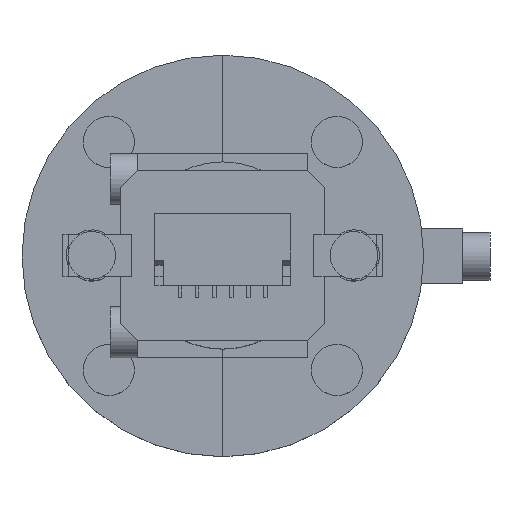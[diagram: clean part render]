
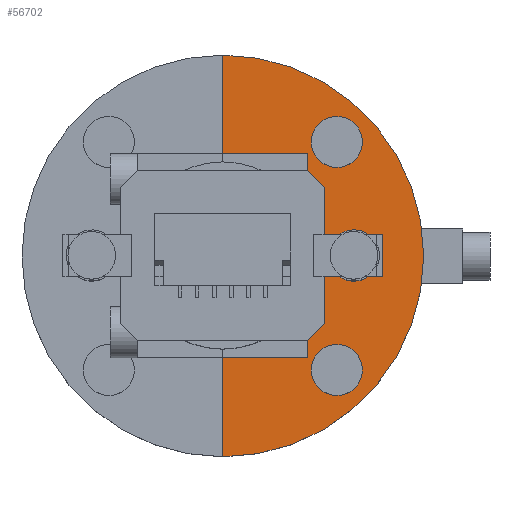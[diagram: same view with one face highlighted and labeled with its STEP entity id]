
A CAD part, top view. The second image highlights one B-rep face of the part: STEP entity #56702.
In plain terms, the highlighted planar face has unit normal (0, 0, 1).
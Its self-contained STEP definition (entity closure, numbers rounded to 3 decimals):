
#55081 = VERTEX_POINT('',#55082);
#55082 = CARTESIAN_POINT('',(4.5,0.,2.7));
#55091 = CYLINDRICAL_SURFACE('',#55092,4.5);
#55092 = AXIS2_PLACEMENT_3D('',#55093,#55094,#55095);
#55093 = CARTESIAN_POINT('',(0.,0.,1.2));
#55094 = DIRECTION('',(0.,0.,1.));
#55095 = DIRECTION('',(1.,0.,-0.));
#55103 = CYLINDRICAL_SURFACE('',#55104,4.5);
#55104 = AXIS2_PLACEMENT_3D('',#55105,#55106,#55107);
#55105 = CARTESIAN_POINT('',(0.,0.,1.2));
#55106 = DIRECTION('',(0.,0.,1.));
#55107 = DIRECTION('',(1.,0.,-0.));
#55115 = EDGE_CURVE('',#55081,#55116,#55118,.T.);
#55116 = VERTEX_POINT('',#55117);
#55117 = CARTESIAN_POINT('',(0.,4.5,2.7));
#55118 = SURFACE_CURVE('',#55119,(#55124,#55131),.PCURVE_S1.);
#55119 = CIRCLE('',#55120,4.5);
#55120 = AXIS2_PLACEMENT_3D('',#55121,#55122,#55123);
#55121 = CARTESIAN_POINT('',(0.,0.,2.7));
#55122 = DIRECTION('',(0.,0.,1.));
#55123 = DIRECTION('',(1.,0.,-0.));
#55124 = PCURVE('',#55091,#55125);
#55125 = DEFINITIONAL_REPRESENTATION('',(#55126),#55130);
#55126 = LINE('',#55127,#55128);
#55127 = CARTESIAN_POINT('',(0.,1.5));
#55128 = VECTOR('',#55129,1.);
#55129 = DIRECTION('',(1.,0.));
#55130 = ( GEOMETRIC_REPRESENTATION_CONTEXT(2) 
PARAMETRIC_REPRESENTATION_CONTEXT() REPRESENTATION_CONTEXT('2D SPACE',''
  ) );
#55131 = PCURVE('',#55132,#55137);
#55132 = PLANE('',#55133);
#55133 = AXIS2_PLACEMENT_3D('',#55134,#55135,#55136);
#55134 = CARTESIAN_POINT('',(0.,0.,2.7));
#55135 = DIRECTION('',(0.,0.,1.));
#55136 = DIRECTION('',(1.,0.,-0.));
#55137 = DEFINITIONAL_REPRESENTATION('',(#55138),#55142);
#55138 = CIRCLE('',#55139,4.5);
#55139 = AXIS2_PLACEMENT_2D('',#55140,#55141);
#55140 = CARTESIAN_POINT('',(0.,0.));
#55141 = DIRECTION('',(1.,0.));
#55142 = ( GEOMETRIC_REPRESENTATION_CONTEXT(2) 
PARAMETRIC_REPRESENTATION_CONTEXT() REPRESENTATION_CONTEXT('2D SPACE',''
  ) );
#55159 = PLANE('',#55160);
#55160 = AXIS2_PLACEMENT_3D('',#55161,#55162,#55163);
#55161 = CARTESIAN_POINT('',(0.,-50.,-50.));
#55162 = DIRECTION('',(1.,0.,0.));
#55163 = DIRECTION('',(0.,0.,1.));
#55362 = EDGE_CURVE('',#55363,#55081,#55365,.T.);
#55363 = VERTEX_POINT('',#55364);
#55364 = CARTESIAN_POINT('',(0.,-4.5,2.7));
#55365 = SURFACE_CURVE('',#55366,(#55371,#55378),.PCURVE_S1.);
#55366 = CIRCLE('',#55367,4.5);
#55367 = AXIS2_PLACEMENT_3D('',#55368,#55369,#55370);
#55368 = CARTESIAN_POINT('',(0.,0.,2.7));
#55369 = DIRECTION('',(0.,0.,1.));
#55370 = DIRECTION('',(1.,0.,-0.));
#55371 = PCURVE('',#55103,#55372);
#55372 = DEFINITIONAL_REPRESENTATION('',(#55373),#55377);
#55373 = LINE('',#55374,#55375);
#55374 = CARTESIAN_POINT('',(0.,1.5));
#55375 = VECTOR('',#55376,1.);
#55376 = DIRECTION('',(1.,0.));
#55377 = ( GEOMETRIC_REPRESENTATION_CONTEXT(2) 
PARAMETRIC_REPRESENTATION_CONTEXT() REPRESENTATION_CONTEXT('2D SPACE',''
  ) );
#55378 = PCURVE('',#55132,#55379);
#55379 = DEFINITIONAL_REPRESENTATION('',(#55380),#55384);
#55380 = CIRCLE('',#55381,4.5);
#55381 = AXIS2_PLACEMENT_2D('',#55382,#55383);
#55382 = CARTESIAN_POINT('',(0.,0.));
#55383 = DIRECTION('',(1.,0.));
#55384 = ( GEOMETRIC_REPRESENTATION_CONTEXT(2) 
PARAMETRIC_REPRESENTATION_CONTEXT() REPRESENTATION_CONTEXT('2D SPACE',''
  ) );
#55476 = PLANE('',#55477);
#55477 = AXIS2_PLACEMENT_3D('',#55478,#55479,#55480);
#55478 = CARTESIAN_POINT('',(0.,-50.,-50.));
#55479 = DIRECTION('',(1.,0.,0.));
#55480 = DIRECTION('',(0.,0.,1.));
#55971 = EDGE_CURVE('',#55116,#55972,#55974,.T.);
#55972 = VERTEX_POINT('',#55973);
#55973 = CARTESIAN_POINT('',(0.,11.8,2.7));
#55974 = SURFACE_CURVE('',#55975,(#55979,#55985),.PCURVE_S1.);
#55975 = LINE('',#55976,#55977);
#55976 = CARTESIAN_POINT('',(0.,-25.,2.7));
#55977 = VECTOR('',#55978,1.);
#55978 = DIRECTION('',(0.,1.,0.));
#55979 = PCURVE('',#55159,#55980);
#55980 = DEFINITIONAL_REPRESENTATION('',(#55981),#55984);
#55981 = B_SPLINE_CURVE_WITH_KNOTS('',1,(#55982,#55983),.UNSPECIFIED.,
  .F.,.F.,(2,2),(13.2,36.8),.PIECEWISE_BEZIER_KNOTS.);
#55982 = CARTESIAN_POINT('',(52.7,-38.2));
#55983 = CARTESIAN_POINT('',(52.7,-61.8));
#55984 = ( GEOMETRIC_REPRESENTATION_CONTEXT(2) 
PARAMETRIC_REPRESENTATION_CONTEXT() REPRESENTATION_CONTEXT('2D SPACE',''
  ) );
#55985 = PCURVE('',#55132,#55986);
#55986 = DEFINITIONAL_REPRESENTATION('',(#55987),#55990);
#55987 = B_SPLINE_CURVE_WITH_KNOTS('',1,(#55988,#55989),.UNSPECIFIED.,
  .F.,.F.,(2,2),(13.2,36.8),.PIECEWISE_BEZIER_KNOTS.);
#55988 = CARTESIAN_POINT('',(0.,-11.8));
#55989 = CARTESIAN_POINT('',(0.,11.8));
#55990 = ( GEOMETRIC_REPRESENTATION_CONTEXT(2) 
PARAMETRIC_REPRESENTATION_CONTEXT() REPRESENTATION_CONTEXT('2D SPACE',''
  ) );
#56485 = CYLINDRICAL_SURFACE('',#56486,11.8);
#56486 = AXIS2_PLACEMENT_3D('',#56487,#56488,#56489);
#56487 = CARTESIAN_POINT('',(0.,0.,1.2));
#56488 = DIRECTION('',(0.,0.,1.));
#56489 = DIRECTION('',(1.,0.,-0.));
#56702 = ADVANCED_FACE('',(#56703,#56780,#56811),#55132,.T.);
#56703 = FACE_BOUND('',#56704,.T.);
#56704 = EDGE_LOOP('',(#56705,#56736,#56758,#56759,#56760,#56761));
#56705 = ORIENTED_EDGE('',*,*,#56706,.T.);
#56706 = EDGE_CURVE('',#56707,#56709,#56711,.T.);
#56707 = VERTEX_POINT('',#56708);
#56708 = CARTESIAN_POINT('',(0.,-11.8,2.7));
#56709 = VERTEX_POINT('',#56710);
#56710 = CARTESIAN_POINT('',(11.8,0.,2.7));
#56711 = SURFACE_CURVE('',#56712,(#56717,#56724),.PCURVE_S1.);
#56712 = CIRCLE('',#56713,11.8);
#56713 = AXIS2_PLACEMENT_3D('',#56714,#56715,#56716);
#56714 = CARTESIAN_POINT('',(0.,0.,2.7));
#56715 = DIRECTION('',(0.,0.,1.));
#56716 = DIRECTION('',(1.,0.,-0.));
#56717 = PCURVE('',#55132,#56718);
#56718 = DEFINITIONAL_REPRESENTATION('',(#56719),#56723);
#56719 = CIRCLE('',#56720,11.8);
#56720 = AXIS2_PLACEMENT_2D('',#56721,#56722);
#56721 = CARTESIAN_POINT('',(0.,0.));
#56722 = DIRECTION('',(1.,0.));
#56723 = ( GEOMETRIC_REPRESENTATION_CONTEXT(2) 
PARAMETRIC_REPRESENTATION_CONTEXT() REPRESENTATION_CONTEXT('2D SPACE',''
  ) );
#56724 = PCURVE('',#56725,#56730);
#56725 = CYLINDRICAL_SURFACE('',#56726,11.8);
#56726 = AXIS2_PLACEMENT_3D('',#56727,#56728,#56729);
#56727 = CARTESIAN_POINT('',(0.,0.,1.2));
#56728 = DIRECTION('',(0.,0.,1.));
#56729 = DIRECTION('',(1.,0.,-0.));
#56730 = DEFINITIONAL_REPRESENTATION('',(#56731),#56735);
#56731 = LINE('',#56732,#56733);
#56732 = CARTESIAN_POINT('',(0.,1.5));
#56733 = VECTOR('',#56734,1.);
#56734 = DIRECTION('',(1.,0.));
#56735 = ( GEOMETRIC_REPRESENTATION_CONTEXT(2) 
PARAMETRIC_REPRESENTATION_CONTEXT() REPRESENTATION_CONTEXT('2D SPACE',''
  ) );
#56736 = ORIENTED_EDGE('',*,*,#56737,.T.);
#56737 = EDGE_CURVE('',#56709,#55972,#56738,.T.);
#56738 = SURFACE_CURVE('',#56739,(#56744,#56751),.PCURVE_S1.);
#56739 = CIRCLE('',#56740,11.8);
#56740 = AXIS2_PLACEMENT_3D('',#56741,#56742,#56743);
#56741 = CARTESIAN_POINT('',(0.,0.,2.7));
#56742 = DIRECTION('',(0.,0.,1.));
#56743 = DIRECTION('',(1.,0.,-0.));
#56744 = PCURVE('',#55132,#56745);
#56745 = DEFINITIONAL_REPRESENTATION('',(#56746),#56750);
#56746 = CIRCLE('',#56747,11.8);
#56747 = AXIS2_PLACEMENT_2D('',#56748,#56749);
#56748 = CARTESIAN_POINT('',(0.,0.));
#56749 = DIRECTION('',(1.,0.));
#56750 = ( GEOMETRIC_REPRESENTATION_CONTEXT(2) 
PARAMETRIC_REPRESENTATION_CONTEXT() REPRESENTATION_CONTEXT('2D SPACE',''
  ) );
#56751 = PCURVE('',#56485,#56752);
#56752 = DEFINITIONAL_REPRESENTATION('',(#56753),#56757);
#56753 = LINE('',#56754,#56755);
#56754 = CARTESIAN_POINT('',(0.,1.5));
#56755 = VECTOR('',#56756,1.);
#56756 = DIRECTION('',(1.,0.));
#56757 = ( GEOMETRIC_REPRESENTATION_CONTEXT(2) 
PARAMETRIC_REPRESENTATION_CONTEXT() REPRESENTATION_CONTEXT('2D SPACE',''
  ) );
#56758 = ORIENTED_EDGE('',*,*,#55971,.F.);
#56759 = ORIENTED_EDGE('',*,*,#55115,.F.);
#56760 = ORIENTED_EDGE('',*,*,#55362,.F.);
#56761 = ORIENTED_EDGE('',*,*,#56762,.F.);
#56762 = EDGE_CURVE('',#56707,#55363,#56763,.T.);
#56763 = SURFACE_CURVE('',#56764,(#56768,#56774),.PCURVE_S1.);
#56764 = LINE('',#56765,#56766);
#56765 = CARTESIAN_POINT('',(0.,-25.,2.7));
#56766 = VECTOR('',#56767,1.);
#56767 = DIRECTION('',(0.,1.,0.));
#56768 = PCURVE('',#55132,#56769);
#56769 = DEFINITIONAL_REPRESENTATION('',(#56770),#56773);
#56770 = B_SPLINE_CURVE_WITH_KNOTS('',1,(#56771,#56772),.UNSPECIFIED.,
  .F.,.F.,(2,2),(13.2,36.8),.PIECEWISE_BEZIER_KNOTS.);
#56771 = CARTESIAN_POINT('',(0.,-11.8));
#56772 = CARTESIAN_POINT('',(0.,11.8));
#56773 = ( GEOMETRIC_REPRESENTATION_CONTEXT(2) 
PARAMETRIC_REPRESENTATION_CONTEXT() REPRESENTATION_CONTEXT('2D SPACE',''
  ) );
#56774 = PCURVE('',#55476,#56775);
#56775 = DEFINITIONAL_REPRESENTATION('',(#56776),#56779);
#56776 = B_SPLINE_CURVE_WITH_KNOTS('',1,(#56777,#56778),.UNSPECIFIED.,
  .F.,.F.,(2,2),(13.2,36.8),.PIECEWISE_BEZIER_KNOTS.);
#56777 = CARTESIAN_POINT('',(52.7,-38.2));
#56778 = CARTESIAN_POINT('',(52.7,-61.8));
#56779 = ( GEOMETRIC_REPRESENTATION_CONTEXT(2) 
PARAMETRIC_REPRESENTATION_CONTEXT() REPRESENTATION_CONTEXT('2D SPACE',''
  ) );
#56780 = FACE_BOUND('',#56781,.T.);
#56781 = EDGE_LOOP('',(#56782));
#56782 = ORIENTED_EDGE('',*,*,#56783,.F.);
#56783 = EDGE_CURVE('',#56784,#56784,#56786,.T.);
#56784 = VERTEX_POINT('',#56785);
#56785 = CARTESIAN_POINT('',(7.55,-6.7,2.7));
#56786 = SURFACE_CURVE('',#56787,(#56792,#56799),.PCURVE_S1.);
#56787 = CIRCLE('',#56788,0.85);
#56788 = AXIS2_PLACEMENT_3D('',#56789,#56790,#56791);
#56789 = CARTESIAN_POINT('',(6.7,-6.7,2.7));
#56790 = DIRECTION('',(0.,0.,1.));
#56791 = DIRECTION('',(1.,0.,-0.));
#56792 = PCURVE('',#55132,#56793);
#56793 = DEFINITIONAL_REPRESENTATION('',(#56794),#56798);
#56794 = CIRCLE('',#56795,0.85);
#56795 = AXIS2_PLACEMENT_2D('',#56796,#56797);
#56796 = CARTESIAN_POINT('',(6.7,-6.7));
#56797 = DIRECTION('',(1.,0.));
#56798 = ( GEOMETRIC_REPRESENTATION_CONTEXT(2) 
PARAMETRIC_REPRESENTATION_CONTEXT() REPRESENTATION_CONTEXT('2D SPACE',''
  ) );
#56799 = PCURVE('',#56800,#56805);
#56800 = CYLINDRICAL_SURFACE('',#56801,0.85);
#56801 = AXIS2_PLACEMENT_3D('',#56802,#56803,#56804);
#56802 = CARTESIAN_POINT('',(6.7,-6.7,1.19));
#56803 = DIRECTION('',(0.,0.,1.));
#56804 = DIRECTION('',(1.,0.,-0.));
#56805 = DEFINITIONAL_REPRESENTATION('',(#56806),#56810);
#56806 = LINE('',#56807,#56808);
#56807 = CARTESIAN_POINT('',(0.,1.51));
#56808 = VECTOR('',#56809,1.);
#56809 = DIRECTION('',(1.,0.));
#56810 = ( GEOMETRIC_REPRESENTATION_CONTEXT(2) 
PARAMETRIC_REPRESENTATION_CONTEXT() REPRESENTATION_CONTEXT('2D SPACE',''
  ) );
#56811 = FACE_BOUND('',#56812,.T.);
#56812 = EDGE_LOOP('',(#56813));
#56813 = ORIENTED_EDGE('',*,*,#56814,.F.);
#56814 = EDGE_CURVE('',#56815,#56815,#56817,.T.);
#56815 = VERTEX_POINT('',#56816);
#56816 = CARTESIAN_POINT('',(7.55,6.7,2.7));
#56817 = SURFACE_CURVE('',#56818,(#56823,#56830),.PCURVE_S1.);
#56818 = CIRCLE('',#56819,0.85);
#56819 = AXIS2_PLACEMENT_3D('',#56820,#56821,#56822);
#56820 = CARTESIAN_POINT('',(6.7,6.7,2.7));
#56821 = DIRECTION('',(0.,0.,1.));
#56822 = DIRECTION('',(1.,0.,-0.));
#56823 = PCURVE('',#55132,#56824);
#56824 = DEFINITIONAL_REPRESENTATION('',(#56825),#56829);
#56825 = CIRCLE('',#56826,0.85);
#56826 = AXIS2_PLACEMENT_2D('',#56827,#56828);
#56827 = CARTESIAN_POINT('',(6.7,6.7));
#56828 = DIRECTION('',(1.,0.));
#56829 = ( GEOMETRIC_REPRESENTATION_CONTEXT(2) 
PARAMETRIC_REPRESENTATION_CONTEXT() REPRESENTATION_CONTEXT('2D SPACE',''
  ) );
#56830 = PCURVE('',#56831,#56836);
#56831 = CYLINDRICAL_SURFACE('',#56832,0.85);
#56832 = AXIS2_PLACEMENT_3D('',#56833,#56834,#56835);
#56833 = CARTESIAN_POINT('',(6.7,6.7,1.19));
#56834 = DIRECTION('',(0.,0.,1.));
#56835 = DIRECTION('',(1.,0.,-0.));
#56836 = DEFINITIONAL_REPRESENTATION('',(#56837),#56841);
#56837 = LINE('',#56838,#56839);
#56838 = CARTESIAN_POINT('',(0.,1.51));
#56839 = VECTOR('',#56840,1.);
#56840 = DIRECTION('',(1.,0.));
#56841 = ( GEOMETRIC_REPRESENTATION_CONTEXT(2) 
PARAMETRIC_REPRESENTATION_CONTEXT() REPRESENTATION_CONTEXT('2D SPACE',''
  ) );
